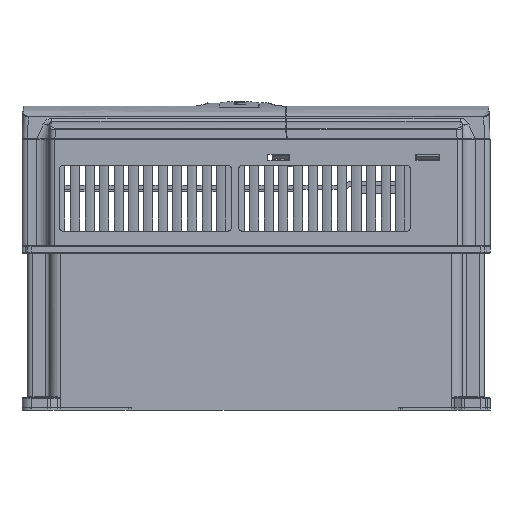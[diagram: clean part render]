
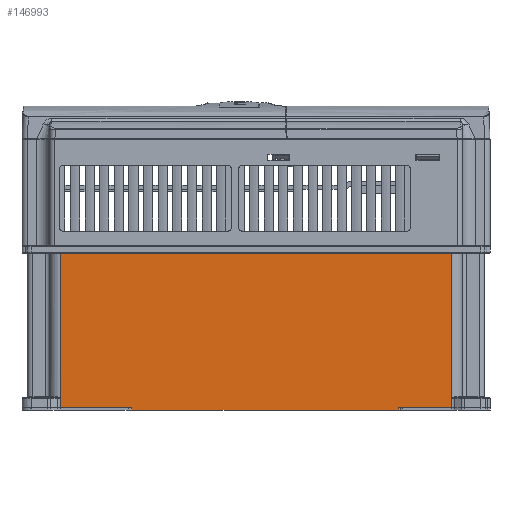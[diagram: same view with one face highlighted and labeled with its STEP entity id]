
A CAD part, left-side view. The second image highlights one B-rep face of the part: STEP entity #146993.
In plain terms, the highlighted planar face has unit normal (-1, 0, 0) as drawn and (1, 0, 0) by its records, which use the part's own axes.
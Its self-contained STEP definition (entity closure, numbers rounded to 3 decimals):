
#123597=DIRECTION('',(0.,0.,-1.));
#123598=VECTOR('',#123597,146.);
#123599=CARTESIAN_POINT('',(70.,-80.,68.));
#123600=LINE('',#123599,#123598);
#124844=CARTESIAN_POINT('',(70.,-73.,108.657));
#124846=DIRECTION('',(-0.001,0.,-1.));
#124847=VECTOR('',#124846,1.493);
#124848=CARTESIAN_POINT('',(70.,-73.,108.657));
#124849=LINE('',#124848,#124847);
#124857=DIRECTION('',(-0.001,0.,1.));
#124858=VECTOR('',#124857,1.493);
#124859=CARTESIAN_POINT('',(70.,-73.,-108.657));
#124860=LINE('',#124859,#124858);
#129182=DIRECTION('',(0.,0.,-1.));
#129183=VECTOR('',#129182,39.169);
#129184=CARTESIAN_POINT('',(70.,-78.5,107.169));
#129185=LINE('',#129184,#129183);
#129186=DIRECTION('',(0.,1.,0.));
#129187=VECTOR('',#129186,5.);
#129188=CARTESIAN_POINT('',(70.,-78.5,107.169));
#129189=LINE('',#129188,#129187);
#129190=CARTESIAN_POINT('',(70.,-73.405,
107.403));
#129191=CARTESIAN_POINT('',(70.,-73.373,
107.481));
#129192=CARTESIAN_POINT('',(70.,-73.298,
107.663));
#129193=CARTESIAN_POINT('',(70.,-73.201,
107.913));
#129194=CARTESIAN_POINT('',(70.,-73.116,
108.162));
#129195=CARTESIAN_POINT('',(70.,-73.046,
108.408));
#129196=CARTESIAN_POINT('',(70.,-73.013,108.574));
#129197=CARTESIAN_POINT('',(70.,-73.,108.657));
#129199=DIRECTION('',(0.,-1.,0.));
#129200=VECTOR('',#129199,79.);
#129201=CARTESIAN_POINT('',(70.,6.,107.));
#129202=LINE('',#129201,#129200);
#129203=DIRECTION('',(0.,0.,-1.));
#129204=VECTOR('',#129203,214.);
#129205=CARTESIAN_POINT('',(70.,6.,107.));
#129206=LINE('',#129205,#129204);
#129207=DIRECTION('',(0.,1.,0.));
#129208=VECTOR('',#129207,79.);
#129209=CARTESIAN_POINT('',(70.,-73.,-107.));
#129210=LINE('',#129209,#129208);
#129211=CARTESIAN_POINT('',(70.,-73.408,
-107.395));
#129212=CARTESIAN_POINT('',(70.,-73.366,
-107.478));
#129213=CARTESIAN_POINT('',(70.,-73.303,
-107.663));
#129214=CARTESIAN_POINT('',(70.,-73.183,
-107.953));
#129215=CARTESIAN_POINT('',(70.,-73.078,
-108.281));
#129216=CARTESIAN_POINT('',(70.,-73.02,-108.527));
#129217=CARTESIAN_POINT('',(70.,-73.,-108.657));
#129219=DIRECTION('',(0.,-1.,0.));
#129220=VECTOR('',#129219,5.);
#129221=CARTESIAN_POINT('',(70.,-73.5,-107.169));
#129222=LINE('',#129221,#129220);
#129223=DIRECTION('',(0.,0.,-1.));
#129224=VECTOR('',#129223,29.169);
#129225=CARTESIAN_POINT('',(70.,-78.5,-78.));
#129226=LINE('',#129225,#129224);
#129227=DIRECTION('',(0.,1.,0.));
#129228=VECTOR('',#129227,1.5);
#129229=CARTESIAN_POINT('',(70.,-80.,-78.));
#129230=LINE('',#129229,#129228);
#129231=DIRECTION('',(0.,1.,0.));
#129232=VECTOR('',#129231,1.5);
#129233=CARTESIAN_POINT('',(70.,-80.,68.));
#129234=LINE('',#129233,#129232);
#134727=CARTESIAN_POINT('',(70.,-73.,107.));
#134728=CARTESIAN_POINT('',(70.,-73.,107.028));
#134729=CARTESIAN_POINT('',(70.001,-73.,107.087));
#134730=CARTESIAN_POINT('',(69.999,-73.,107.136));
#134731=CARTESIAN_POINT('',(69.999,-73.,107.164));
#134764=CARTESIAN_POINT('',(70.,-73.405,
107.403));
#134776=CARTESIAN_POINT('',(70.,-73.405,
107.403));
#134777=CARTESIAN_POINT('',(70.,-73.422,
107.36));
#134778=CARTESIAN_POINT('',(70.,-73.447,
107.298));
#134779=CARTESIAN_POINT('',(70.,-73.484,107.209));
#134780=CARTESIAN_POINT('',(70.,-73.5,107.169));
#134876=CARTESIAN_POINT('',(69.999,-73.,-107.164));
#134877=CARTESIAN_POINT('',(69.999,-73.,-107.136));
#134878=CARTESIAN_POINT('',(70.001,-73.,-107.087));
#134879=CARTESIAN_POINT('',(70.,-73.,-107.028));
#134880=CARTESIAN_POINT('',(70.,-73.,-107.));
#135088=CARTESIAN_POINT('',(70.,-73.408,
-107.395));
#135095=CARTESIAN_POINT('',(70.,-73.5,-107.169));
#135096=CARTESIAN_POINT('',(70.,-73.484,-107.207));
#135097=CARTESIAN_POINT('',(70.,-73.453,
-107.283));
#135098=CARTESIAN_POINT('',(70.,-73.423,
-107.358));
#135099=CARTESIAN_POINT('',(70.,-73.408,
-107.395));
#137312=CARTESIAN_POINT('',(70.,-80.,68.));
#137314=VERTEX_POINT('',#137312);
#137328=CARTESIAN_POINT('',(70.,-80.,-78.));
#137330=VERTEX_POINT('',#137328);
#137339=CARTESIAN_POINT('',(70.,-78.5,107.169));
#137340=CARTESIAN_POINT('',(70.,-78.5,68.));
#137341=VERTEX_POINT('',#137339);
#137342=VERTEX_POINT('',#137340);
#137343=CARTESIAN_POINT('',(70.,-78.5,-78.));
#137344=CARTESIAN_POINT('',(70.,-78.5,-107.169));
#137345=VERTEX_POINT('',#137343);
#137346=VERTEX_POINT('',#137344);
#137743=CARTESIAN_POINT('',(70.,6.,107.));
#137744=CARTESIAN_POINT('',(70.,-73.,107.));
#137745=VERTEX_POINT('',#137743);
#137746=VERTEX_POINT('',#137744);
#137747=CARTESIAN_POINT('',(70.,-73.,-107.));
#137748=CARTESIAN_POINT('',(70.,6.,-107.));
#137749=VERTEX_POINT('',#137747);
#137750=VERTEX_POINT('',#137748);
#137828=CARTESIAN_POINT('',(70.,-73.5,-107.169));
#137830=VERTEX_POINT('',#137828);
#137953=CARTESIAN_POINT('',(70.,-73.5,107.169));
#137954=VERTEX_POINT('',#137953);
#137957=VERTEX_POINT('',#134731);
#137958=VERTEX_POINT('',#134876);
#138025=VERTEX_POINT('',#124844);
#138026=VERTEX_POINT('',#134764);
#138028=VERTEX_POINT('',#135088);
#138029=VERTEX_POINT('',#129217);
#146958=CARTESIAN_POINT('',(70.,-80.,125.));
#146959=DIRECTION('',(1.,0.,0.));
#146960=DIRECTION('',(0.,0.,-1.));
#146961=AXIS2_PLACEMENT_3D('',#146958,#146959,#146960);
#146962=PLANE('',#146961);
#146963=ORIENTED_EDGE('',*,*,#140303,.F.);
#146965=ORIENTED_EDGE('',*,*,#146964,.T.);
#146967=ORIENTED_EDGE('',*,*,#146966,.F.);
#146969=ORIENTED_EDGE('',*,*,#146968,.T.);
#146970=ORIENTED_EDGE('',*,*,#141725,.T.);
#146972=ORIENTED_EDGE('',*,*,#146971,.F.);
#146974=ORIENTED_EDGE('',*,*,#146973,.F.);
#146975=ORIENTED_EDGE('',*,*,#142036,.T.);
#146977=ORIENTED_EDGE('',*,*,#146976,.F.);
#146979=ORIENTED_EDGE('',*,*,#146978,.F.);
#146980=ORIENTED_EDGE('',*,*,#141737,.F.);
#146982=ORIENTED_EDGE('',*,*,#146981,.F.);
#146984=ORIENTED_EDGE('',*,*,#146983,.F.);
#146985=ORIENTED_EDGE('',*,*,#146950,.T.);
#146986=ORIENTED_EDGE('',*,*,#140082,.F.);
#146988=ORIENTED_EDGE('',*,*,#146987,.F.);
#146989=ORIENTED_EDGE('',*,*,#139852,.F.);
#146990=ORIENTED_EDGE('',*,*,#140004,.T.);
#146991=EDGE_LOOP('',(#146963,#146965,#146967,#146969,#146970,#146972,#146974,
#146975,#146977,#146979,#146980,#146982,#146984,#146985,#146986,#146988,#146989,
#146990));
#146992=FACE_OUTER_BOUND('',#146991,.F.);
#129198=B_SPLINE_CURVE_WITH_KNOTS('',3,(#129190,#129191,#129192,#129193,#129194,
#129195,#129196,#129197),.UNSPECIFIED.,.F.,.F.,(4,1,1,1,1,4),(0.,0.2,0.4,
0.6,0.8,1.),.UNSPECIFIED.);
#129218=B_SPLINE_CURVE_WITH_KNOTS('',3,(#129211,#129212,#129213,#129214,#129215,
#129216,#129217),.UNSPECIFIED.,.F.,.F.,(4,1,1,1,4),(0.,0.25,0.5,0.75,
1.),.UNSPECIFIED.);
#134732=B_SPLINE_CURVE_WITH_KNOTS('',3,(#134727,#134728,#134729,#134730,
#134731),.UNSPECIFIED.,.F.,.F.,(4,1,4),(0.,0.5,1.),.UNSPECIFIED.);
#134781=B_SPLINE_CURVE_WITH_KNOTS('',3,(#134776,#134777,#134778,#134779,
#134780),.UNSPECIFIED.,.F.,.F.,(4,1,4),(0.,0.5,1.),.UNSPECIFIED.);
#134881=B_SPLINE_CURVE_WITH_KNOTS('',3,(#134876,#134877,#134878,#134879,
#134880),.UNSPECIFIED.,.F.,.F.,(4,1,4),(0.,0.5,1.),.UNSPECIFIED.);
#135100=B_SPLINE_CURVE_WITH_KNOTS('',3,(#135095,#135096,#135097,#135098,
#135099),.UNSPECIFIED.,.F.,.F.,(4,1,4),(0.,0.5,1.),.UNSPECIFIED.);
#139852=EDGE_CURVE('',#137314,#137330,#123600,.T.);
#140004=EDGE_CURVE('',#137314,#137342,#129234,.T.);
#140082=EDGE_CURVE('',#137345,#137346,#129226,.T.);
#140303=EDGE_CURVE('',#137341,#137342,#129185,.T.);
#141725=EDGE_CURVE('',#138025,#137957,#124849,.T.);
#141737=EDGE_CURVE('',#138029,#137958,#124860,.T.);
#142036=EDGE_CURVE('',#137745,#137750,#129206,.T.);
#146950=EDGE_CURVE('',#137830,#137346,#129222,.T.);
#146964=EDGE_CURVE('',#137341,#137954,#129189,.T.);
#146966=EDGE_CURVE('',#138026,#137954,#134781,.T.);
#146968=EDGE_CURVE('',#138026,#138025,#129198,.T.);
#146971=EDGE_CURVE('',#137746,#137957,#134732,.T.);
#146973=EDGE_CURVE('',#137745,#137746,#129202,.T.);
#146976=EDGE_CURVE('',#137749,#137750,#129210,.T.);
#146978=EDGE_CURVE('',#137958,#137749,#134881,.T.);
#146981=EDGE_CURVE('',#138028,#138029,#129218,.T.);
#146983=EDGE_CURVE('',#137830,#138028,#135100,.T.);
#146987=EDGE_CURVE('',#137330,#137345,#129230,.T.);
#146993=ADVANCED_FACE('',(#146992),#146962,.T.);
